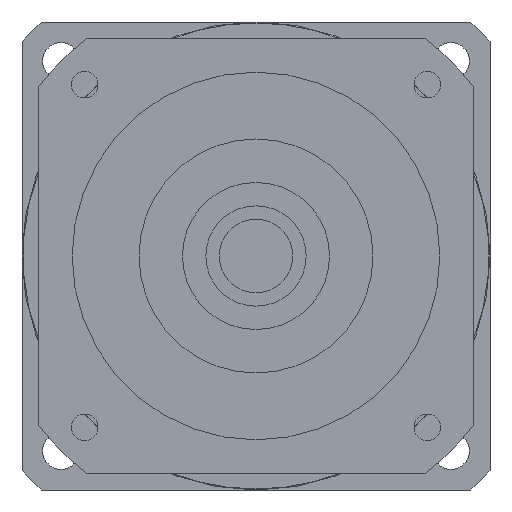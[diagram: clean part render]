
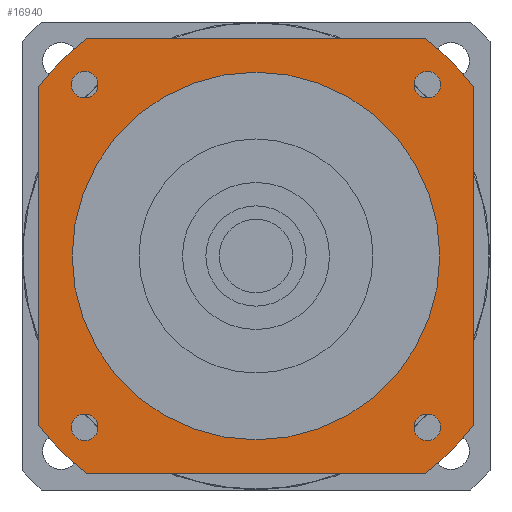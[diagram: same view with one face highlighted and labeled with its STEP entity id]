
A CAD part, left-side view. The second image highlights one B-rep face of the part: STEP entity #16940.
In plain terms, the highlighted planar face has unit normal (-1, 0, 0) as drawn and (0, 0, -1) by its records, which use the part's own axes.
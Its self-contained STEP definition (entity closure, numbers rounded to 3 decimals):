
#15240=CARTESIAN_POINT('',(55.265,-51.265,-62.7));
#15250=VERTEX_POINT('',#15240);
#15280=CARTESIAN_POINT('',(51.265,-51.265,-62.7));
#15290=DIRECTION('',(0.,0.,-1.));
#15300=DIRECTION('',(1.,0.,0.));
#15310=AXIS2_PLACEMENT_3D('',#15280,#15290,#15300);
#15320=CIRCLE('',#15310,4.);
#15330=CARTESIAN_POINT('',(47.265,-51.265,-62.7));
#15340=VERTEX_POINT('',#15330);
#15350=EDGE_CURVE('',#15340,#15250,#15320,.T.);
#15500=CARTESIAN_POINT('',(65.,65.,-62.7));
#15510=DIRECTION('',(0.,0.,-1.));
#15520=DIRECTION('',(1.,0.,0.));
#15530=AXIS2_PLACEMENT_3D('',#15500,#15510,#15520);
#15540=PLANE('',#15530);
#15550=CARTESIAN_POINT('',(-51.265,-51.265,-62.7));
#15560=DIRECTION('',(0.,0.,-1.));
#15570=DIRECTION('',(0.,-1.,0.));
#15580=AXIS2_PLACEMENT_3D('',#15550,#15560,#15570);
#15590=CIRCLE('',#15580,4.);
#15600=CARTESIAN_POINT('',(-51.265,-55.265,-62.7));
#15610=VERTEX_POINT('',#15600);
#15620=CARTESIAN_POINT('',(-51.265,-47.265,-62.7));
#15630=VERTEX_POINT('',#15620);
#15640=EDGE_CURVE('',#15610,#15630,#15590,.T.);
#15650=ORIENTED_EDGE('',*,*,#15640,.F.);
#15660=EDGE_CURVE('',#15630,#15610,#15590,.T.);
#15670=ORIENTED_EDGE('',*,*,#15660,.F.);
#15680=EDGE_LOOP('',(#15670,#15650));
#15690=FACE_BOUND('',#15680,.T.);
#15700=CARTESIAN_POINT('',(-51.265,51.265,-62.7));
#15710=DIRECTION('',(0.,0.,-1.));
#15720=DIRECTION('',(-1.,0.,0.));
#15730=AXIS2_PLACEMENT_3D('',#15700,#15710,#15720);
#15740=CIRCLE('',#15730,4.);
#15750=CARTESIAN_POINT('',(-55.265,51.265,-62.7));
#15760=VERTEX_POINT('',#15750);
#15770=CARTESIAN_POINT('',(-47.265,51.265,-62.7));
#15780=VERTEX_POINT('',#15770);
#15790=EDGE_CURVE('',#15760,#15780,#15740,.T.);
#15800=ORIENTED_EDGE('',*,*,#15790,.F.);
#15810=EDGE_CURVE('',#15780,#15760,#15740,.T.);
#15820=ORIENTED_EDGE('',*,*,#15810,.F.);
#15830=EDGE_LOOP('',(#15820,#15800));
#15840=FACE_BOUND('',#15830,.T.);
#15850=CARTESIAN_POINT('',(51.265,51.265,-62.7));
#15860=DIRECTION('',(0.,0.,-1.));
#15870=DIRECTION('',(0.,1.,0.));
#15880=AXIS2_PLACEMENT_3D('',#15850,#15860,#15870);
#15890=CIRCLE('',#15880,4.);
#15900=CARTESIAN_POINT('',(51.265,55.265,-62.7));
#15910=VERTEX_POINT('',#15900);
#15920=CARTESIAN_POINT('',(51.265,47.265,-62.7));
#15930=VERTEX_POINT('',#15920);
#15940=EDGE_CURVE('',#15910,#15930,#15890,.T.);
#15950=ORIENTED_EDGE('',*,*,#15940,.F.);
#15960=EDGE_CURVE('',#15930,#15910,#15890,.T.);
#15970=ORIENTED_EDGE('',*,*,#15960,.F.);
#15980=EDGE_LOOP('',(#15970,#15950));
#15990=FACE_BOUND('',#15980,.T.);
#16000=CARTESIAN_POINT('',(0.,0.,
-62.7));
#16010=DIRECTION('',(0.,0.,1.));
#16020=DIRECTION('',(0.,1.,0.));
#16030=AXIS2_PLACEMENT_3D('',#16000,#16010,#16020);
#16040=CIRCLE('',#16030,55.);
#16050=CARTESIAN_POINT('',(-55.,0.,-62.7));
#16060=VERTEX_POINT('',#16050);
#16070=CARTESIAN_POINT('',(55.,0.,-62.7));
#16080=VERTEX_POINT('',#16070);
#16090=EDGE_CURVE('',#16060,#16080,#16040,.T.);
#16100=ORIENTED_EDGE('',*,*,#16090,.T.);
#16110=CARTESIAN_POINT('',(0.,55.,-62.7));
#16120=VERTEX_POINT('',#16110);
#16130=EDGE_CURVE('',#16120,#16060,#16040,.T.);
#16140=ORIENTED_EDGE('',*,*,#16130,.T.);
#16150=EDGE_CURVE('',#16080,#16120,#16040,.T.);
#16160=ORIENTED_EDGE('',*,*,#16150,.T.);
#16170=EDGE_LOOP('',(#16160,#16140,#16100));
#16180=FACE_BOUND('',#16170,.T.);
#16190=CARTESIAN_POINT('',(-65.,65.,-62.7));
#16200=DIRECTION('',(1.,0.,0.));
#16210=VECTOR('',#16200,1000.);
#16220=LINE('',#16190,#16210);
#16230=CARTESIAN_POINT('',(-50.806,65.,-62.7));
#16240=VERTEX_POINT('',#16230);
#16250=CARTESIAN_POINT('',(50.806,65.,-62.7));
#16260=VERTEX_POINT('',#16250);
#16270=EDGE_CURVE('',#16240,#16260,#16220,.T.);
#16280=ORIENTED_EDGE('',*,*,#16270,.T.);
#16290=CARTESIAN_POINT('',(0.,0.,
-62.7));
#16300=DIRECTION('',(0.,0.,-1.));
#16310=DIRECTION('',(1.,0.,0.));
#16320=AXIS2_PLACEMENT_3D('',#16290,#16300,#16310);
#16330=CIRCLE('',#16320,82.5);
#16340=CARTESIAN_POINT('',(-65.,50.806,-62.7));
#16350=VERTEX_POINT('',#16340);
#16360=EDGE_CURVE('',#16350,#16240,#16330,.T.);
#16370=ORIENTED_EDGE('',*,*,#16360,.T.);
#16380=CARTESIAN_POINT('',(-65.,-65.,-62.7));
#16390=DIRECTION('',(0.,1.,0.));
#16400=VECTOR('',#16390,1000.);
#16410=LINE('',#16380,#16400);
#16420=CARTESIAN_POINT('',(-65.,-50.806,-62.7));
#16430=VERTEX_POINT('',#16420);
#16440=EDGE_CURVE('',#16430,#16350,#16410,.T.);
#16450=ORIENTED_EDGE('',*,*,#16440,.T.);
#16460=CARTESIAN_POINT('',(0.,0.,
-62.7));
#16470=DIRECTION('',(0.,0.,-1.));
#16480=DIRECTION('',(1.,0.,0.));
#16490=AXIS2_PLACEMENT_3D('',#16460,#16470,#16480);
#16500=CIRCLE('',#16490,82.5);
#16510=CARTESIAN_POINT('',(-50.806,-65.,-62.7));
#16520=VERTEX_POINT('',#16510);
#16530=EDGE_CURVE('',#16520,#16430,#16500,.T.);
#16540=ORIENTED_EDGE('',*,*,#16530,.T.);
#16550=CARTESIAN_POINT('',(65.,-65.,-62.7));
#16560=DIRECTION('',(-1.,0.,0.));
#16570=VECTOR('',#16560,1000.);
#16580=LINE('',#16550,#16570);
#16590=CARTESIAN_POINT('',(50.806,-65.,-62.7));
#16600=VERTEX_POINT('',#16590);
#16610=EDGE_CURVE('',#16600,#16520,#16580,.T.);
#16620=ORIENTED_EDGE('',*,*,#16610,.T.);
#16630=CARTESIAN_POINT('',(0.,0.,
-62.7));
#16640=DIRECTION('',(0.,0.,-1.));
#16650=DIRECTION('',(1.,0.,0.));
#16660=AXIS2_PLACEMENT_3D('',#16630,#16640,#16650);
#16670=CIRCLE('',#16660,82.5);
#16680=CARTESIAN_POINT('',(65.,-50.806,-62.7));
#16690=VERTEX_POINT('',#16680);
#16700=EDGE_CURVE('',#16690,#16600,#16670,.T.);
#16710=ORIENTED_EDGE('',*,*,#16700,.T.);
#16720=CARTESIAN_POINT('',(65.,65.,-62.7));
#16730=DIRECTION('',(0.,-1.,0.));
#16740=VECTOR('',#16730,1000.);
#16750=LINE('',#16720,#16740);
#16760=CARTESIAN_POINT('',(65.,50.806,-62.7));
#16770=VERTEX_POINT('',#16760);
#16780=EDGE_CURVE('',#16770,#16690,#16750,.T.);
#16790=ORIENTED_EDGE('',*,*,#16780,.T.);
#16800=CARTESIAN_POINT('',(0.,0.,
-62.7));
#16810=DIRECTION('',(0.,0.,-1.));
#16820=DIRECTION('',(1.,0.,0.));
#16830=AXIS2_PLACEMENT_3D('',#16800,#16810,#16820);
#16840=CIRCLE('',#16830,82.5);
#16850=EDGE_CURVE('',#16260,#16770,#16840,.T.);
#16860=ORIENTED_EDGE('',*,*,#16850,.T.);
#16870=EDGE_LOOP('',(#16860,#16790,#16710,#16620,#16540,#16450,#16370,
#16280));
#16880=FACE_OUTER_BOUND('',#16870,.T.);
#16890=EDGE_CURVE('',#15250,#15340,#15320,.T.);
#16900=ORIENTED_EDGE('',*,*,#16890,.F.);
#16910=ORIENTED_EDGE('',*,*,#15350,.F.);
#16920=EDGE_LOOP('',(#16910,#16900));
#16930=FACE_BOUND('',#16920,.T.);
#16940=ADVANCED_FACE('',(#15690,#15840,#15990,#16180,#16880,#16930),
#15540,.T.);
